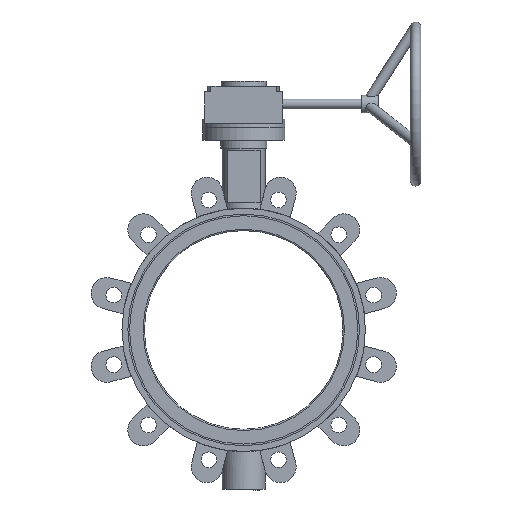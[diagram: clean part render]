
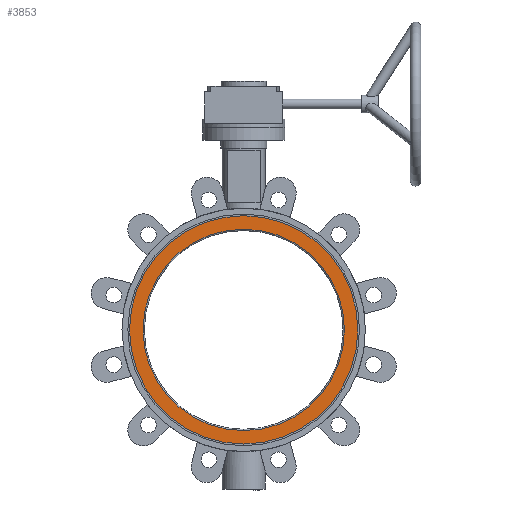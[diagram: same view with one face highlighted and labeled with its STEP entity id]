
A CAD part, front view. The second image highlights one B-rep face of the part: STEP entity #3853.
In plain terms, the highlighted planar face has unit normal (0, -1, 0) as drawn and (-1, 0, 0) by its records, which use the part's own axes.
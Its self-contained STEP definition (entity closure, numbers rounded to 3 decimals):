
#240 = CIRCLE ( 'NONE', #5278, 153.473 ) ;
#603 = CARTESIAN_POINT ( 'NONE',  ( -41., 0., 0. ) ) ;
#685 = PLANE ( 'NONE',  #3993 ) ;
#862 = AXIS2_PLACEMENT_3D ( 'NONE', #4964, #3492, #3586 ) ;
#895 = VERTEX_POINT ( 'NONE', #976 ) ;
#976 = CARTESIAN_POINT ( 'NONE',  ( -41., 0., 174. ) ) ;
#2249 = VERTEX_POINT ( 'NONE', #3295 ) ;
#2275 = DIRECTION ( 'NONE',  ( -1., 0., 0. ) ) ;
#2948 = DIRECTION ( 'NONE',  ( 1., 0., 0. ) ) ;
#3012 = CARTESIAN_POINT ( 'NONE',  ( -41., 174., 0. ) ) ;
#3223 = CIRCLE ( 'NONE', #862, 174. ) ;
#3224 = EDGE_LOOP ( 'NONE', ( #4073 ) ) ;
#3295 = CARTESIAN_POINT ( 'NONE',  ( -41., 0., 153.473 ) ) ;
#3492 = DIRECTION ( 'NONE',  ( -1., 0., 0. ) ) ;
#3545 = EDGE_LOOP ( 'NONE', ( #8488 ) ) ;
#3586 = DIRECTION ( 'NONE',  ( 0., 0., 1. ) ) ;
#3807 = FACE_BOUND ( 'NONE', #3545, .T. ) ;
#3853 = ADVANCED_FACE ( 'NONE', ( #3807, #6336 ), #685, .F. ) ;
#3993 = AXIS2_PLACEMENT_3D ( 'NONE', #3012, #2948, #9225 ) ;
#4073 = ORIENTED_EDGE ( 'NONE', *, *, #9330, .T. ) ;
#4726 = EDGE_CURVE ( 'NONE', #2249, #2249, #240, .T. ) ;
#4964 = CARTESIAN_POINT ( 'NONE',  ( -41., 0., 0. ) ) ;
#5278 = AXIS2_PLACEMENT_3D ( 'NONE', #603, #2275, #6869 ) ;
#6336 = FACE_OUTER_BOUND ( 'NONE', #3224, .T. ) ;
#6869 = DIRECTION ( 'NONE',  ( 0., 0., 1. ) ) ;
#8488 = ORIENTED_EDGE ( 'NONE', *, *, #4726, .F. ) ;
#9225 = DIRECTION ( 'NONE',  ( 0., 0., -1. ) ) ;
#9330 = EDGE_CURVE ( 'NONE', #895, #895, #3223, .T. ) ;
